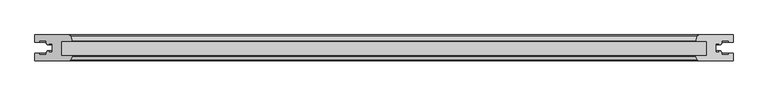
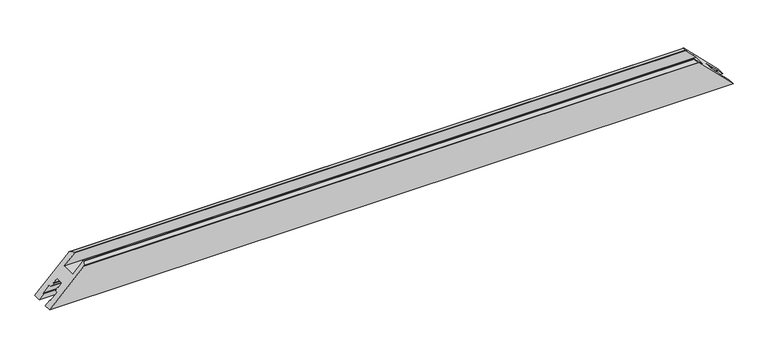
"""IFC4 building model written with IfcOpenShell, lengths in millimetres: proxy geometry, Weiku - Montante - Folha de correr 02.2.01.020 : Weiku - Montante - Folha de correr 02.2.01.020."""

from ifc_helpers import new_model, si_unit, frame, origin, place, context, project, spatial, ellipse_curve, source, transform, mapped, element, save
from ifc_brep_helpers import plane_surface, cylinder_surface, advanced_brep


def generic_models_fb8a1a52(model_context):
    return source(origin(), model_context, "Body", "AdvancedBrep", [
        advanced_brep(
        [(675.0, 50.0, 0.0), (-675.0, 50.0, 0.0), (-608.5004942, 50.0, 66.4995058), (608.5004942, 50.0, 66.4995058), (675.0, 35.5, 0.0), (-675.0, 35.5, 0.0), (-675.0, 0.0, 0.0), (675.0, 0.0, 0.0), (607.4879875, 0.0, 67.5120125), (-607.4879875, 0.0, 67.5120125), (-666.4, 35.5, 8.6), (-666.4, 38.3, 8.6), (-653.2, 38.3, 21.8), (-653.2, 33.1, 21.8), (-650.8524152, 33.1, 24.1475848), (-651.0273926, 31.1, 23.9726074), (-648.2, 31.1, 26.8), (-648.2, 33.1, 26.8), (-641.0, 33.1, 34.0), (-641.0, 16.9, 34.0), (-648.2, 16.9, 26.8), (-648.2, 18.9, 26.8), (-651.0273926, 18.9, 23.9726074), (-650.8524152, 16.9, 24.1475848), (-653.2, 16.9, 21.8), (-653.2, 11.7, 21.8), (-666.4, 11.7, 8.6), (-666.4, 14.5, 8.6), (-675.0, 14.5, 0.0), (-606.5940268, 0.5518546, 68.4059732), (-603.0520406, 7.617411, 71.9479594), (-604.2141895, 9.5, 70.7858105), (-624.0007611, 9.5, 50.9992389), (-624.0007611, 37.5, 50.9992389), (-603.5007611, 37.5, 71.4992389), (-603.0177981, 38.1294095, 71.9822019), (-605.6027168, 47.7764571, 69.3972832), (605.6027168, 47.7764571, 69.3972832), (603.0177981, 38.1294095, 71.9822019), (603.5007611, 37.5, 71.4992389), (624.0007611, 37.5, 50.9992389), (624.0007611, 9.5, 50.9992389), (604.2141895, 9.5, 70.7858105), (603.0520406, 7.617411, 71.9479594), (606.5940268, 0.5518546, 68.4059732), (675.0, 14.5, 0.0), (666.4, 14.5, 8.6), (666.4, 11.7, 8.6), (653.2, 11.7, 21.8), (653.2, 16.9, 21.8), (650.8524152, 16.9, 24.1475848), (651.0273926, 18.9, 23.9726074), (648.2, 18.9, 26.8), (648.2, 16.9, 26.8), (641.0, 16.9, 34.0), (641.0, 33.1, 34.0), (648.2, 33.1, 26.8), (648.2, 31.1, 26.8), (651.0273926, 31.1, 23.9726074), (650.8524152, 33.1, 24.1475848), (653.2, 33.1, 21.8), (653.2, 38.3, 21.8), (666.4, 38.3, 8.6), (666.4, 35.5, 8.6)],
        [
            (0, 1),
            (1, 2),
            (2, 3),
            (3, 0),
            (0, 4),
            (4, 5),
            (5, 1),
            (6, 7),
            (7, 8),
            (8, 9),
            (9, 6),
            (5, 10),
            (10, 11),
            (11, 12),
            (12, 13),
            (13, 14),
            (14, 15),
            (15, 16),
            (16, 17),
            (17, 18),
            (18, 19),
            (19, 20),
            (20, 21),
            (21, 22),
            (22, 23),
            (23, 24),
            (24, 25),
            (25, 26),
            (26, 27),
            (27, 28),
            (28, 6),
            (9, 29, ellipse_curve(frame((-607.4879875, 1.0, 67.5120125), z_axis=(-0.707106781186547, 0.0, 0.7071067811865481), x_axis=(-0.7071067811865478, 0.0, -0.707106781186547)), 1.4142136, 1.0)),
            (29, 30),
            (30, 31, ellipse_curve(frame((-604.2141895, 8.2, 70.7858105), z_axis=(-0.707106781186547, 0.0, 0.7071067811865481), x_axis=(-0.7071067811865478, 0.0, -0.707106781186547)), 1.8384776, 1.3)),
            (31, 32),
            (32, 33),
            (33, 34),
            (34, 35, ellipse_curve(frame((-603.5007611, 38.0, 71.4992389), z_axis=(-0.707106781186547, 0.0, 0.7071067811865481), x_axis=(-0.7071067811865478, 0.0, -0.707106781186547)), 0.7071068, 0.5)),
            (35, 36),
            (36, 2, ellipse_curve(frame((-608.5004942, 47.0, 66.4995058), z_axis=(-0.707106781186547, 0.0, 0.7071067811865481), x_axis=(-0.7071067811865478, 0.0, -0.707106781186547)), 4.2426407, 3.0)),
            (3, 37, ellipse_curve(frame((608.5004942, 47.0, 66.4995058), z_axis=(0.7071067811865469, 0.0, 0.7071067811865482), x_axis=(-0.707106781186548, 0.0, 0.7071067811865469)), 4.2426407, 3.0)),
            (37, 38),
            (38, 39, ellipse_curve(frame((603.5007611, 38.0, 71.4992389), z_axis=(0.7071067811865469, 0.0, 0.7071067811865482), x_axis=(-0.707106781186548, 0.0, 0.7071067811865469)), 0.7071068, 0.5)),
            (39, 40),
            (40, 41),
            (41, 42),
            (42, 43, ellipse_curve(frame((604.2141895, 8.2, 70.7858105), z_axis=(0.7071067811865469, 0.0, 0.7071067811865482), x_axis=(-0.707106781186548, 0.0, 0.7071067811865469)), 1.8384776, 1.3)),
            (43, 44),
            (44, 8, ellipse_curve(frame((607.4879875, 1.0, 67.5120125), z_axis=(0.7071067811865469, 0.0, 0.7071067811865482), x_axis=(-0.707106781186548, 0.0, 0.7071067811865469)), 1.4142136, 1.0)),
            (7, 45),
            (45, 46),
            (46, 47),
            (47, 48),
            (48, 49),
            (49, 50),
            (50, 51),
            (51, 52),
            (52, 53),
            (53, 54),
            (54, 55),
            (55, 56),
            (56, 57),
            (57, 58),
            (58, 59),
            (59, 60),
            (60, 61),
            (61, 62),
            (62, 63),
            (63, 4),
            (44, 29),
            (43, 30),
            (42, 31),
            (41, 32),
            (40, 33),
            (39, 34),
            (38, 35),
            (37, 36),
            (63, 10),
            (62, 11),
            (61, 12),
            (60, 13),
            (59, 14),
            (58, 15),
            (57, 16),
            (56, 17),
            (55, 18),
            (54, 19),
            (53, 20),
            (52, 21),
            (51, 22),
            (50, 23),
            (49, 24),
            (48, 25),
            (47, 26),
            (46, 27),
            (45, 28),
        ],
        [
            plane_surface(frame((-675.0, 50.0, 66.4995058), z_axis=(0.0, 1.0, 0.0), x_axis=(1.0, 0.0, 0.0))),
            plane_surface(frame((-675.0, 50.0, 0.0), z_axis=(0.0, 0.0, -1.0), x_axis=(1.0, 0.0, 0.0))),
            plane_surface(frame((-675.0, 0.0, 0.0), z_axis=(0.0, -1.0, 0.0), x_axis=(1.0, 0.0, 0.0))),
            plane_surface(frame((-703.2842712, 0.0, -28.2842712), z_axis=(-0.707106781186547, 0.0, 0.7071067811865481), x_axis=(0.0, 1.0, 0.0))),
            plane_surface(frame((595.0, 0.0, 80.0), z_axis=(0.7071067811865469, 0.0, 0.7071067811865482), x_axis=(0.0, 1.0, 0.0))),
            cylinder_surface(frame((-675.0, 1.0, 67.5120125), z_axis=(-1.0, 0.0, 0.0), x_axis=(0.0, 1.0, 0.0)), 1.0),
            plane_surface(frame((-675.0, 0.5518546, 68.4059732), z_axis=(0.0, -0.4481453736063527, 0.8939606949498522), x_axis=(1.0, 0.0, 0.0))),
            cylinder_surface(frame((-675.0, 8.2, 70.7858105), z_axis=(-1.0, 0.0, 0.0), x_axis=(0.0, 1.0, 0.0)), 1.3),
            plane_surface(frame((-675.0, 9.5, 70.7858105), z_axis=(0.0, 1.0, 0.0), x_axis=(1.0, 0.0, 0.0))),
            plane_surface(frame((-675.0, 9.5, 50.9992389), z_axis=(0.0, 0.0, 1.0), x_axis=(1.0, 0.0, 0.0))),
            plane_surface(frame((-675.0, 37.5, 50.9992389), z_axis=(0.0, -1.0, 0.0), x_axis=(1.0, 0.0, 0.0))),
            cylinder_surface(frame((-675.0, 38.0, 71.4992389), z_axis=(-1.0, 0.0, 0.0), x_axis=(0.0, 1.0, 0.0)), 0.5),
            plane_surface(frame((-675.0, 38.1294095, 71.9822019), z_axis=(0.0, 0.2588190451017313, 0.9659258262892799), x_axis=(1.0, 0.0, 0.0))),
            cylinder_surface(frame((-675.0, 47.0, 66.4995058), z_axis=(-1.0, 0.0, 0.0), x_axis=(0.0, 1.0, 0.0)), 3.0),
            plane_surface(frame((-675.0, 35.5, 0.0), z_axis=(0.0, -1.0, 0.0), x_axis=(1.0, 0.0, 0.0))),
            plane_surface(frame((-675.0, 35.5, 8.6), z_axis=(0.0, 0.0, 1.0), x_axis=(1.0, 0.0, 0.0))),
            plane_surface(frame((-675.0, 38.3, 8.6), z_axis=(0.0, -1.0, 0.0), x_axis=(1.0, 0.0, 0.0))),
            plane_surface(frame((-675.0, 38.3, 21.8), z_axis=(0.0, 0.0, -1.0), x_axis=(1.0, 0.0, 0.0))),
            plane_surface(frame((-675.0, 33.1, 21.8), z_axis=(0.0, -1.0, 0.0), x_axis=(1.0, 0.0, 0.0))),
            plane_surface(frame((-675.0, 33.1, 24.1475848), z_axis=(0.0, 0.08715574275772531, -0.9961946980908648), x_axis=(1.0, 0.0, 0.0))),
            plane_surface(frame((-675.0, 31.1, 23.9726074), z_axis=(0.0, -1.0, 0.0), x_axis=(1.0, 0.0, 0.0))),
            plane_surface(frame((-675.0, 31.1, 26.8), z_axis=(0.0, 0.0, 1.0), x_axis=(1.0, 0.0, 0.0))),
            plane_surface(frame((-675.0, 33.1, 26.8), z_axis=(0.0, -1.0, 0.0), x_axis=(1.0, 0.0, 0.0))),
            plane_surface(frame((-675.0, 33.1, 34.0), z_axis=(0.0, 0.0, -1.0), x_axis=(1.0, 0.0, 0.0))),
            plane_surface(frame((-675.0, 16.9, 34.0), z_axis=(0.0, 1.0, 0.0), x_axis=(1.0, 0.0, 0.0))),
            plane_surface(frame((-675.0, 16.9, 26.8), z_axis=(0.0, 0.0, 1.0), x_axis=(1.0, 0.0, 0.0))),
            plane_surface(frame((-675.0, 18.9, 26.8), z_axis=(0.0, 1.0, 0.0), x_axis=(1.0, 0.0, 0.0))),
            plane_surface(frame((-675.0, 18.9, 23.9726074), z_axis=(0.0, -0.08715574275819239, -0.9961946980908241), x_axis=(1.0, 0.0, 0.0))),
            plane_surface(frame((-675.0, 16.9, 24.1475848), z_axis=(0.0, 1.0, 0.0), x_axis=(1.0, 0.0, 0.0))),
            plane_surface(frame((-675.0, 16.9, 21.8), z_axis=(0.0, 0.0, -1.0), x_axis=(1.0, 0.0, 0.0))),
            plane_surface(frame((-675.0, 11.7, 21.8), z_axis=(0.0, 1.0, 0.0), x_axis=(1.0, 0.0, 0.0))),
            plane_surface(frame((-675.0, 11.7, 8.6), z_axis=(0.0, 0.0, 1.0), x_axis=(1.0, 0.0, 0.0))),
            plane_surface(frame((-675.0, 14.5, 8.6), z_axis=(0.0, 1.0, 0.0), x_axis=(1.0, 0.0, 0.0))),
            plane_surface(frame((-675.0, 14.5, 0.0), z_axis=(0.0, 0.0, -1.0), x_axis=(1.0, 0.0, 0.0))),
        ],
        [
            (0, [[1, 2, 3, 4]]),
            (1, [[-1, 5, 6, 7]]),
            (2, [[8, 9, 10, 11]]),
            (3, [[-2, -7, 12, 13, 14, 15, 16, 17, 18, 19, 20, 21, 22, 23, 24, 25, 26, 27, 28, 29, 30, 31, -11, 32, 33, 34, 35, 36, 37, 38, 39, 40]]),
            (4, [[-4, 41, 42, 43, 44, 45, 46, 47, 48, 49, -9, 50, 51, 52, 53, 54, 55, 56, 57, 58, 59, 60, 61, 62, 63, 64, 65, 66, 67, 68, 69, -5]]),
            (5, [[-32, -10, -49, 70]]),
            (6, [[-33, -70, -48, 71]]),
            (7, [[-34, -71, -47, 72]]),
            (8, [[-35, -72, -46, 73]]),
            (9, [[-36, -73, -45, 74]]),
            (10, [[-37, -74, -44, 75]]),
            (11, [[-38, -75, -43, 76]]),
            (12, [[-39, -76, -42, 77]]),
            (13, [[-40, -77, -41, -3]]),
            (14, [[-6, -69, 78, -12]]),
            (15, [[-13, -78, -68, 79]]),
            (16, [[-14, -79, -67, 80]]),
            (17, [[-15, -80, -66, 81]]),
            (18, [[-16, -81, -65, 82]]),
            (19, [[-17, -82, -64, 83]]),
            (20, [[-18, -83, -63, 84]]),
            (21, [[-19, -84, -62, 85]]),
            (22, [[-20, -85, -61, 86]]),
            (23, [[-21, -86, -60, 87]]),
            (24, [[-22, -87, -59, 88]]),
            (25, [[-23, -88, -58, 89]]),
            (26, [[-24, -89, -57, 90]]),
            (27, [[-25, -90, -56, 91]]),
            (28, [[-26, -91, -55, 92]]),
            (29, [[-27, -92, -54, 93]]),
            (30, [[-28, -93, -53, 94]]),
            (31, [[-29, -94, -52, 95]]),
            (32, [[96, -30, -95, -51]]),
            (33, [[-8, -31, -96, -50]]),
        ],
    ),
    ])


if __name__ == "__main__":
    model = new_model("IFC4")
    model_context = context("Model", 3, world=origin())
    ifc_project = project(units=[si_unit("LENGTHUNIT", "METRE", prefix="MILLI")], contexts=[model_context])
    site = spatial("IfcSite", under=ifc_project)
    building = spatial("IfcBuilding", under=site)
    placement = place(None, origin())
    generic_models_shape = generic_models_fb8a1a52(model_context)
    element("IfcBuildingElementProxy", 1, Name="Weiku - Montante - Folha de correr 02.2.01.020 : Weiku - Montante - Folha de correr 02.2.01.020", ObjectType="Weiku - Montante - Folha de correr 02.2.01.020 : Weiku - Montante - Folha de correr 02.2.01.020", at=placement, inside=building, context=model_context, shape_type="MappedRepresentation", body=[
        mapped(generic_models_shape, transform((0.0, 0.0, 0.0), x_axis=(1.0, 0.0, 0.0), y_axis=(0.0, 1.0, 0.0), z_axis=(0.0, 0.0, 1.0))),
    ])
    save(model, "model.ifc")
